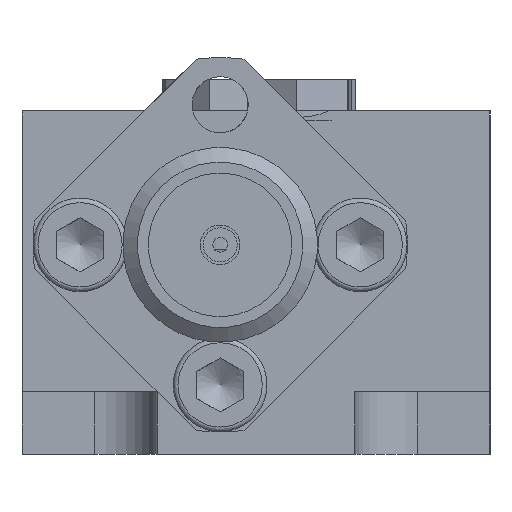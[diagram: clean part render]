
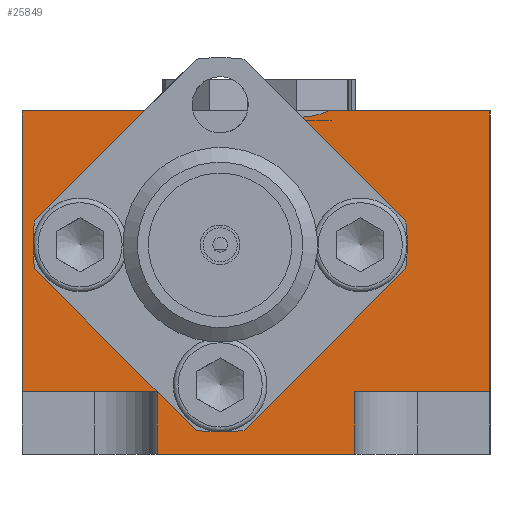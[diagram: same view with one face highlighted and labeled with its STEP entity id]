
A CAD part, left-side view. The second image highlights one B-rep face of the part: STEP entity #25849.
In plain terms, the highlighted planar face has unit normal (-1, 0, 0).
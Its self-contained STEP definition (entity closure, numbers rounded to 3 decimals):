
#326=B_SPLINE_CURVE_WITH_KNOTS('',3,(#33935,#33936,#33937,#33938),
 .UNSPECIFIED.,.F.,.F.,(4,4),(0.009,0.01),
 .UNSPECIFIED.);
#568=LINE('',#33389,#2586);
#572=LINE('',#33401,#2590);
#576=LINE('',#33413,#2594);
#580=LINE('',#33422,#2598);
#628=LINE('',#33695,#2646);
#630=LINE('',#33699,#2648);
#633=LINE('',#33705,#2651);
#634=LINE('',#33707,#2652);
#643=LINE('',#33724,#2661);
#652=LINE('',#33755,#2670);
#664=LINE('',#33826,#2682);
#750=LINE('',#34176,#2768);
#752=LINE('',#34178,#2770);
#2586=VECTOR('',#28407,1000.);
#2590=VECTOR('',#28419,1000.);
#2594=VECTOR('',#28431,1000.);
#2598=VECTOR('',#28441,1000.);
#2646=VECTOR('',#28679,1000.);
#2648=VECTOR('',#28683,1000.);
#2651=VECTOR('',#28688,1000.);
#2652=VECTOR('',#28691,1000.);
#2661=VECTOR('',#28706,1000.);
#2670=VECTOR('',#28731,1000.);
#2682=VECTOR('',#28745,1000.);
#2768=VECTOR('',#28989,1000.);
#2770=VECTOR('',#28991,1000.);
#5189=ORIENTED_EDGE('',*,*,#9842,.F.);
#5190=ORIENTED_EDGE('',*,*,#9839,.F.);
#5191=ORIENTED_EDGE('',*,*,#9836,.F.);
#5192=ORIENTED_EDGE('',*,*,#9833,.F.);
#5193=ORIENTED_EDGE('',*,*,#9830,.F.);
#5194=ORIENTED_EDGE('',*,*,#9826,.F.);
#5195=ORIENTED_EDGE('',*,*,#9847,.F.);
#5196=ORIENTED_EDGE('',*,*,#10150,.F.);
#5197=ORIENTED_EDGE('',*,*,#9994,.T.);
#5198=ORIENTED_EDGE('',*,*,#9952,.T.);
#5199=ORIENTED_EDGE('',*,*,#9951,.T.);
#5200=ORIENTED_EDGE('',*,*,#9961,.T.);
#5201=ORIENTED_EDGE('',*,*,#9948,.F.);
#5202=ORIENTED_EDGE('',*,*,#9946,.F.);
#5203=ORIENTED_EDGE('',*,*,#9974,.F.);
#5204=ORIENTED_EDGE('',*,*,#10152,.F.);
#5205=ORIENTED_EDGE('',*,*,#10031,.T.);
#9826=EDGE_CURVE('',#12423,#12424,#14236,.T.);
#9830=EDGE_CURVE('',#12424,#12427,#568,.T.);
#9833=EDGE_CURVE('',#12427,#12429,#14238,.T.);
#9836=EDGE_CURVE('',#12429,#12431,#572,.T.);
#9839=EDGE_CURVE('',#12431,#12433,#14240,.T.);
#9842=EDGE_CURVE('',#12433,#12420,#576,.T.);
#9847=EDGE_CURVE('',#12416,#12423,#580,.T.);
#9946=EDGE_CURVE('',#12518,#12517,#628,.T.);
#9948=EDGE_CURVE('',#12517,#12519,#630,.T.);
#9951=EDGE_CURVE('',#12520,#12521,#633,.T.);
#9952=EDGE_CURVE('',#12522,#12520,#634,.T.);
#9961=EDGE_CURVE('',#12521,#12519,#643,.T.);
#9974=EDGE_CURVE('',#12535,#12518,#652,.T.);
#9994=EDGE_CURVE('',#12554,#12522,#664,.T.);
#10031=EDGE_CURVE('',#12581,#12420,#326,.T.);
#10150=EDGE_CURVE('',#12554,#12416,#750,.T.);
#10152=EDGE_CURVE('',#12581,#12535,#752,.T.);
#12416=VERTEX_POINT('',#33363);
#12420=VERTEX_POINT('',#33370);
#12423=VERTEX_POINT('',#33381);
#12424=VERTEX_POINT('',#33382);
#12427=VERTEX_POINT('',#33390);
#12429=VERTEX_POINT('',#33396);
#12431=VERTEX_POINT('',#33402);
#12433=VERTEX_POINT('',#33408);
#12517=VERTEX_POINT('',#33692);
#12518=VERTEX_POINT('',#33694);
#12519=VERTEX_POINT('',#33698);
#12520=VERTEX_POINT('',#33702);
#12521=VERTEX_POINT('',#33704);
#12522=VERTEX_POINT('',#33708);
#12535=VERTEX_POINT('',#33754);
#12554=VERTEX_POINT('',#33827);
#12581=VERTEX_POINT('',#33934);
#14236=CIRCLE('',#26886,6.);
#14238=CIRCLE('',#26890,6.);
#14240=CIRCLE('',#26894,6.);
#14801=EDGE_LOOP('',(#5189,#5190,#5191,#5192,#5193,#5194,#5195,#5196,#5197,
#5198,#5199,#5200,#5201,#5202,#5203,#5204,#5205));
#16164=FACE_BOUND('',#14801,.T.);
#17400=PLANE('',#27096);
#25849=ADVANCED_FACE('',(#16164),#17400,.F.);
#26886=AXIS2_PLACEMENT_3D('',#33380,#28399,#28400);
#26890=AXIS2_PLACEMENT_3D('',#33395,#28412,#28413);
#26894=AXIS2_PLACEMENT_3D('',#33407,#28424,#28425);
#27096=AXIS2_PLACEMENT_3D('',#34204,#29015,#29016);
#28399=DIRECTION('',(-1.,0.,0.));
#28400=DIRECTION('',(0.,-0.707,-0.707));
#28407=DIRECTION('',(0.,-0.707,-0.707));
#28412=DIRECTION('',(-1.,0.,0.));
#28413=DIRECTION('',(0.,-0.707,-0.707));
#28419=DIRECTION('',(0.,-0.707,0.707));
#28424=DIRECTION('',(-1.,0.,0.));
#28425=DIRECTION('',(0.,-0.707,-0.707));
#28431=DIRECTION('',(0.,0.707,0.707));
#28441=DIRECTION('',(0.,0.707,-0.707));
#28679=DIRECTION('',(0.,1.,0.));
#28683=DIRECTION('',(0.,0.,-1.));
#28688=DIRECTION('',(0.,0.,-1.));
#28691=DIRECTION('',(0.,-1.,0.));
#28706=DIRECTION('',(0.,-1.,0.));
#28731=DIRECTION('',(0.,0.,-1.));
#28745=DIRECTION('',(0.,0.,-1.));
#28989=DIRECTION('',(0.,-1.,0.));
#28991=DIRECTION('',(0.,-1.,0.));
#29015=DIRECTION('',(1.,0.,0.));
#29016=DIRECTION('',(0.,0.,-1.));
#33363=CARTESIAN_POINT('',(-41.,3.578,11.));
#33370=CARTESIAN_POINT('',(-41.,-1.476,10.801));
#33380=CARTESIAN_POINT('',(-41.,1.15,6.71));
#33381=CARTESIAN_POINT('',(-41.,7.101,7.477));
#33382=CARTESIAN_POINT('',(-41.,7.101,5.943));
#33389=CARTESIAN_POINT('',(-41.,7.101,5.943));
#33390=CARTESIAN_POINT('',(-41.,1.917,0.759));
#33395=CARTESIAN_POINT('',(-41.,1.15,6.71));
#33396=CARTESIAN_POINT('',(-41.,0.383,0.759));
#33401=CARTESIAN_POINT('',(-41.,0.383,0.759));
#33402=CARTESIAN_POINT('',(-41.,-4.801,5.943));
#33407=CARTESIAN_POINT('',(-41.,1.15,6.71));
#33408=CARTESIAN_POINT('',(-41.,-4.801,7.477));
#33413=CARTESIAN_POINT('',(-41.,-4.801,7.477));
#33422=CARTESIAN_POINT('',(-41.,1.917,12.661));
#33692=CARTESIAN_POINT('',(-41.,-3.17,2.));
#33694=CARTESIAN_POINT('',(-41.,-7.5,2.));
#33695=CARTESIAN_POINT('',(-41.,-7.5,2.));
#33698=CARTESIAN_POINT('',(-41.,-3.17,0.));
#33699=CARTESIAN_POINT('',(-41.,-3.17,2.));
#33702=CARTESIAN_POINT('',(-41.,3.17,2.));
#33704=CARTESIAN_POINT('',(-41.,3.17,0.));
#33705=CARTESIAN_POINT('',(-41.,3.17,2.));
#33707=CARTESIAN_POINT('',(-41.,7.5,2.));
#33708=CARTESIAN_POINT('',(-41.,7.5,2.));
#33724=CARTESIAN_POINT('',(-41.,7.5,0.));
#33754=CARTESIAN_POINT('',(-41.,-7.5,11.));
#33755=CARTESIAN_POINT('',(-41.,-7.5,11.));
#33826=CARTESIAN_POINT('',(-41.,7.5,11.));
#33827=CARTESIAN_POINT('',(-41.,7.5,11.));
#33934=CARTESIAN_POINT('',(-41.,-2.327,11.));
#33935=CARTESIAN_POINT('',(-41.,-2.327,11.));
#33936=CARTESIAN_POINT('',(-41.,-2.057,10.888));
#33937=CARTESIAN_POINT('',(-41.,-1.77,10.811));
#33938=CARTESIAN_POINT('',(-41.,-1.476,10.801));
#34176=CARTESIAN_POINT('',(-41.,7.5,11.));
#34178=CARTESIAN_POINT('',(-41.,7.5,11.));
#34204=CARTESIAN_POINT('',(-41.,7.5,11.));
